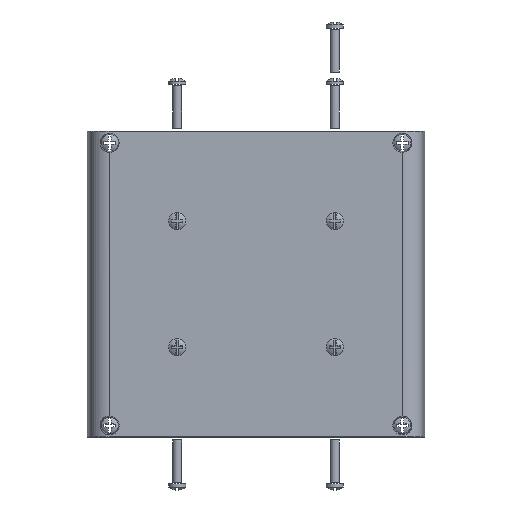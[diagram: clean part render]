
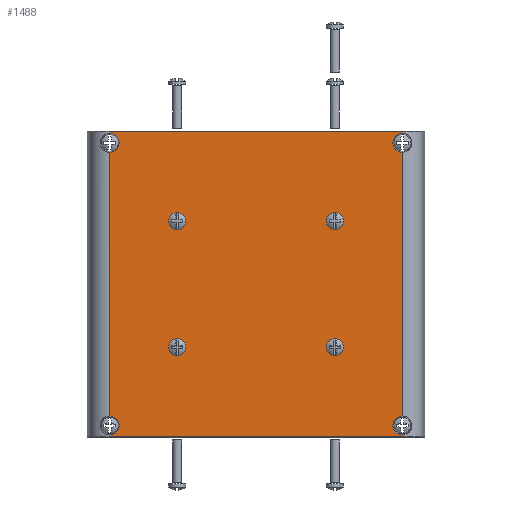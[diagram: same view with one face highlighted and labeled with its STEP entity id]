
A CAD part, left-side view. The second image highlights one B-rep face of the part: STEP entity #1488.
In plain terms, the highlighted planar face has unit normal (-1, 0, 0).
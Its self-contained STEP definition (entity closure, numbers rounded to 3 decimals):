
#1488=ADVANCED_FACE('',(#1666),#1607,.T.);
#1607=PLANE('',#5231);
#1666=FACE_OUTER_BOUND('',#1740,.T.);
#1740=EDGE_LOOP('',(#2419,#2420,#2421,#2422,#2423,#2424,#2425,#2426,#2427,
#2428,#2429,#2430));
#1929=CIRCLE('',#5216,4.209);
#1931=CIRCLE('',#5219,4.209);
#1933=CIRCLE('',#5222,4.209);
#1935=CIRCLE('',#5225,4.209);
#2419=ORIENTED_EDGE('',*,*,#3919,.F.);
#2420=ORIENTED_EDGE('',*,*,#3933,.T.);
#2421=ORIENTED_EDGE('',*,*,#3928,.F.);
#2422=ORIENTED_EDGE('',*,*,#3932,.T.);
#2423=ORIENTED_EDGE('',*,*,#3910,.F.);
#2424=ORIENTED_EDGE('',*,*,#3935,.F.);
#2425=ORIENTED_EDGE('',*,*,#3926,.F.);
#2426=ORIENTED_EDGE('',*,*,#3934,.F.);
#2427=ORIENTED_EDGE('',*,*,#3923,.F.);
#2428=ORIENTED_EDGE('',*,*,#3937,.F.);
#2429=ORIENTED_EDGE('',*,*,#3914,.T.);
#2430=ORIENTED_EDGE('',*,*,#3930,.T.);
#3224=VERTEX_POINT('',#7176);
#3225=VERTEX_POINT('',#7178);
#3228=VERTEX_POINT('',#7185);
#3229=VERTEX_POINT('',#7187);
#3233=VERTEX_POINT('',#7197);
#3234=VERTEX_POINT('',#7198);
#3236=VERTEX_POINT('',#7222);
#3237=VERTEX_POINT('',#7223);
#3239=VERTEX_POINT('',#7238);
#3240=VERTEX_POINT('',#7239);
#3242=VERTEX_POINT('',#7245);
#3243=VERTEX_POINT('',#7246);
#3910=EDGE_CURVE('',#3224,#3225,#4636,.T.);
#3914=EDGE_CURVE('',#3229,#3228,#4638,.T.);
#3919=EDGE_CURVE('',#3233,#3234,#1929,.T.);
#3923=EDGE_CURVE('',#3237,#3236,#1931,.T.);
#3926=EDGE_CURVE('',#3240,#3239,#1933,.T.);
#3928=EDGE_CURVE('',#3242,#3243,#1935,.T.);
#3930=EDGE_CURVE('',#3228,#3234,#4641,.T.);
#3932=EDGE_CURVE('',#3242,#3225,#4643,.T.);
#3933=EDGE_CURVE('',#3233,#3243,#4644,.T.);
#3934=EDGE_CURVE('',#3236,#3240,#4645,.T.);
#3935=EDGE_CURVE('',#3239,#3224,#4646,.T.);
#3937=EDGE_CURVE('',#3229,#3237,#4648,.T.);
#4636=LINE('',#7177,#4920);
#4638=LINE('',#7186,#4922);
#4641=LINE('',#7258,#4925);
#4643=LINE('',#7260,#4927);
#4644=LINE('',#7261,#4928);
#4645=LINE('',#7263,#4929);
#4646=LINE('',#7264,#4930);
#4648=LINE('',#7266,#4932);
#4920=VECTOR('',#5797,1.);
#4922=VECTOR('',#5805,1.);
#4925=VECTOR('',#5836,1.);
#4927=VECTOR('',#5838,1.);
#4928=VECTOR('',#5839,1.);
#4929=VECTOR('',#5842,1.);
#4930=VECTOR('',#5843,1.);
#4932=VECTOR('',#5845,1.);
#5216=AXIS2_PLACEMENT_3D('',#7196,#5814,#5815);
#5219=AXIS2_PLACEMENT_3D('',#7224,#5820,#5821);
#5222=AXIS2_PLACEMENT_3D('',#7240,#5826,#5827);
#5225=AXIS2_PLACEMENT_3D('',#7244,#5832,#5833);
#5231=AXIS2_PLACEMENT_3D('',#7272,#5854,#5855);
#5797=DIRECTION('',(0.,-1.,0.));
#5805=DIRECTION('',(0.,-1.,0.));
#5814=DIRECTION('',(-1.,0.,0.));
#5815=DIRECTION('',(0.,0.,1.));
#5820=DIRECTION('',(-1.,0.,0.));
#5821=DIRECTION('',(0.,0.,1.));
#5826=DIRECTION('',(-1.,0.,0.));
#5827=DIRECTION('',(0.,0.,1.));
#5832=DIRECTION('',(-1.,0.,0.));
#5833=DIRECTION('',(0.,0.,1.));
#5836=DIRECTION('',(0.,0.,1.));
#5838=DIRECTION('',(0.,0.,1.));
#5839=DIRECTION('',(0.,0.,1.));
#5842=DIRECTION('',(0.,0.,1.));
#5843=DIRECTION('',(0.,0.,1.));
#5845=DIRECTION('',(0.,0.,1.));
#5854=DIRECTION('',(-1.,0.,0.));
#5855=DIRECTION('',(0.,0.,1.));
#7176=CARTESIAN_POINT('',(-126.8,65.087,67.695));
#7177=CARTESIAN_POINT('',(-126.8,0.,67.695));
#7178=CARTESIAN_POINT('',(-126.8,-65.087,67.695));
#7185=CARTESIAN_POINT('',(-126.8,-65.087,-67.695));
#7186=CARTESIAN_POINT('',(-126.8,0.,-67.695));
#7187=CARTESIAN_POINT('',(-126.8,65.087,-67.695));
#7196=CARTESIAN_POINT('',(-126.8,-65.,-62.75));
#7197=CARTESIAN_POINT('',(-126.8,-65.087,-58.542));
#7198=CARTESIAN_POINT('',(-126.8,-65.087,-66.958));
#7222=CARTESIAN_POINT('',(-126.8,65.087,-58.542));
#7223=CARTESIAN_POINT('',(-126.8,65.087,-66.958));
#7224=CARTESIAN_POINT('',(-126.8,65.,-62.75));
#7238=CARTESIAN_POINT('',(-126.8,65.087,66.958));
#7239=CARTESIAN_POINT('',(-126.8,65.087,58.542));
#7240=CARTESIAN_POINT('',(-126.8,65.,62.75));
#7244=CARTESIAN_POINT('',(-126.8,-65.,62.75));
#7245=CARTESIAN_POINT('',(-126.8,-65.087,66.958));
#7246=CARTESIAN_POINT('',(-126.8,-65.087,58.542));
#7258=CARTESIAN_POINT('',(-126.8,-65.087,-68.));
#7260=CARTESIAN_POINT('',(-126.8,-65.087,-68.));
#7261=CARTESIAN_POINT('',(-126.8,-65.087,-68.));
#7263=CARTESIAN_POINT('',(-126.8,65.087,-68.));
#7264=CARTESIAN_POINT('',(-126.8,65.087,-68.));
#7266=CARTESIAN_POINT('',(-126.8,65.087,-68.));
#7272=CARTESIAN_POINT('',(-126.8,65.087,-68.));
